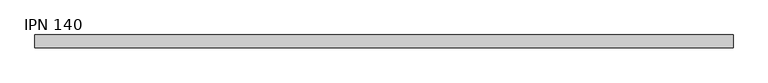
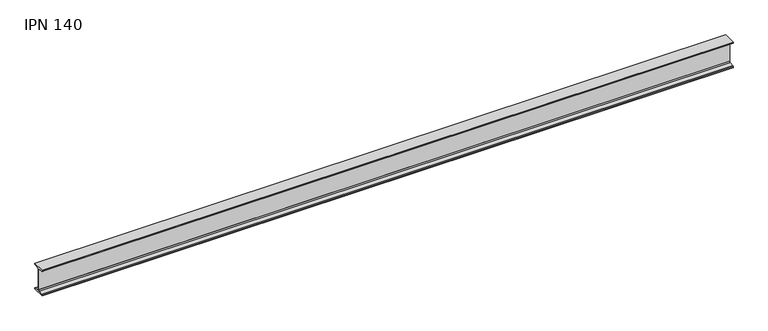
"""IFC4 building model written with IfcOpenShell, lengths in millimetres: beam geometry, IPN - Secciones en I con alas cónicas : IPN 140."""

from ifc_helpers import new_model, si_unit, point, frame, frame_2d, origin, place, context, project, spatial, polyline, circle_curve, trimmed, segment, composite_curve, outline, extrude, source, transform, mapped, element, save


def ipn_140_1e7c6f62(model_context):
    return source(origin(), model_context, "Body", "SweptSolid", [
        extrude(outline(composite_curve([segment(polyline([(33.0, 70.0), (33.0, 66.6671583)]), True, "CONTINUOUS"), segment(trimmed(circle_curve(frame_2d((29.6, 66.6671583)), 3.4), [point((33.0, 66.6671583))], [point((30.0714027, 63.2999964))], False, "CARTESIAN"), True, "CONTINUOUS"), segment(polyline([(30.0714027, 63.2999964), (7.7597073, 60.176359)]), True, "CONTINUOUS"), segment(trimmed(circle_curve(frame_2d((8.55, 54.5314111)), 5.7), [point((7.7597073, 60.176359))], [point((2.85, 54.5314111))], True, "CARTESIAN"), True, "CONTINUOUS"), segment(polyline([(2.85, 54.5314111), (2.85, -54.5314111)]), True, "CONTINUOUS"), segment(trimmed(circle_curve(frame_2d((8.55, -54.5314111)), 5.7), [point((2.85, -54.5314111))], [point((7.7597073, -60.176359))], True, "CARTESIAN"), True, "CONTINUOUS"), segment(polyline([(7.7597073, -60.176359), (30.0714027, -63.2999964)]), True, "CONTINUOUS"), segment(trimmed(circle_curve(frame_2d((29.6, -66.6671583)), 3.4), [point((30.0714027, -63.2999964))], [point((33.0, -66.6671583))], False, "CARTESIAN"), True, "CONTINUOUS"), segment(polyline([(33.0, -66.6671583), (33.0, -70.0), (-33.0, -70.0), (-33.0, -66.6671583)]), True, "CONTINUOUS"), segment(trimmed(circle_curve(frame_2d((-29.6, -66.6671583)), 3.4), [point((-33.0, -66.6671583))], [point((-30.0714027, -63.2999964))], False, "CARTESIAN"), True, "CONTINUOUS"), segment(polyline([(-30.0714027, -63.2999964), (-7.7597073, -60.176359)]), True, "CONTINUOUS"), segment(trimmed(circle_curve(frame_2d((-8.55, -54.5314111)), 5.7), [point((-7.7597073, -60.176359))], [point((-2.85, -54.5314111))], True, "CARTESIAN"), True, "CONTINUOUS"), segment(polyline([(-2.85, -54.5314111), (-2.85, 54.5314111)]), True, "CONTINUOUS"), segment(trimmed(circle_curve(frame_2d((-8.55, 54.5314111)), 5.7), [point((-2.85, 54.5314111))], [point((-7.7597073, 60.176359))], True, "CARTESIAN"), True, "CONTINUOUS"), segment(polyline([(-7.7597073, 60.176359), (-30.0714027, 63.2999964)]), True, "CONTINUOUS"), segment(trimmed(circle_curve(frame_2d((-29.6, 66.6671583)), 3.4), [point((-30.0714027, 63.2999964))], [point((-33.0, 66.6671583))], False, "CARTESIAN"), True, "CONTINUOUS"), segment(polyline([(-33.0, 66.6671583), (-33.0, 70.0), (33.0, 70.0)]), True, "CONTINUOUS")], self_intersect=False)), frame((-1937.5, 0.0, 0.0), z_axis=(1.0, 0.0, 0.0), x_axis=(0.0, 1.0, 0.0)), (0.0, 0.0, 1.0), 3609.0),
    ])


if __name__ == "__main__":
    model = new_model("IFC4")
    model_context = context("Model", 3, world=origin())
    ifc_project = project(units=[si_unit("LENGTHUNIT", "METRE", prefix="MILLI")], contexts=[model_context])
    site = spatial("IfcSite", under=ifc_project)
    building = spatial("IfcBuilding", under=site)
    placement = place(None, origin())
    ipn_140_shape = ipn_140_1e7c6f62(model_context)
    element("IfcBeam", 1, ObjectType="IPN - Secciones en I con alas cónicas : IPN 140", at=placement, inside=building, context=model_context, shape_type="MappedRepresentation", body=[
        mapped(ipn_140_shape, transform((0.0, 0.0, 0.0), x_axis=(1.0, 0.0, 0.0), y_axis=(0.0, 1.0, 0.0), z_axis=(0.0, 0.0, 1.0))),
    ])
    save(model, "model.ifc")
